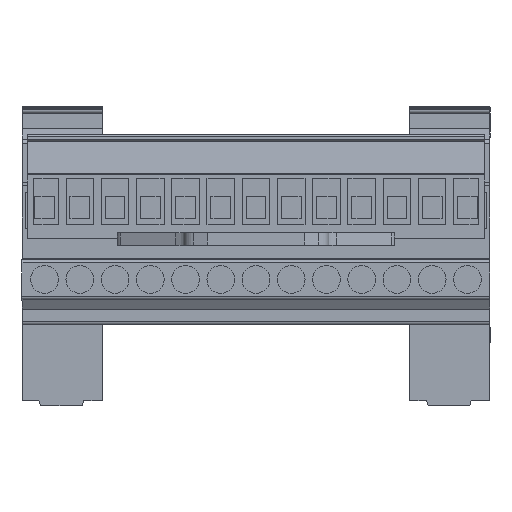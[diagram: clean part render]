
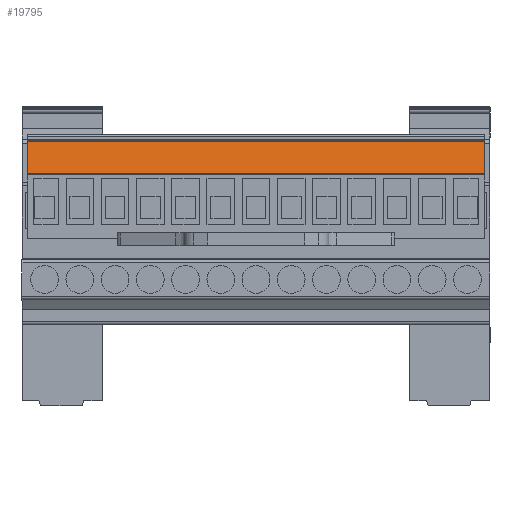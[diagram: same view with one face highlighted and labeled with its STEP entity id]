
A CAD part, top view. The second image highlights one B-rep face of the part: STEP entity #19795.
In plain terms, the highlighted planar face has unit normal (0, 0.174, 0.985).
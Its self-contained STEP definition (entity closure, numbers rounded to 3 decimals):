
#570 = VECTOR ( 'NONE', #3092, 1000. ) ;
#2757 = VERTEX_POINT ( 'NONE', #12497 ) ;
#3092 = DIRECTION ( 'NONE',  ( 1., 0., 0. ) ) ;
#5747 = CARTESIAN_POINT ( 'NONE',  ( -33., 38.098, 23.379 ) ) ;
#6050 = PLANE ( 'NONE',  #20122 ) ;
#8540 = EDGE_CURVE ( 'NONE', #2757, #27515, #13177, .T. ) ;
#9129 = VECTOR ( 'NONE', #30702, 1000. ) ;
#9325 = LINE ( 'NONE', #13281, #17428 ) ;
#10637 = CARTESIAN_POINT ( 'NONE',  ( -33., 33.445, 24.2 ) ) ;
#11513 = EDGE_CURVE ( 'NONE', #16813, #2757, #9325, .T. ) ;
#12008 = ORIENTED_EDGE ( 'NONE', *, *, #8540, .T. ) ;
#12447 = VECTOR ( 'NONE', #13589, 1000. ) ;
#12497 = CARTESIAN_POINT ( 'NONE',  ( -33., 33.445, 24.2 ) ) ;
#13165 = FACE_OUTER_BOUND ( 'NONE', #18298, .T. ) ;
#13177 = LINE ( 'NONE', #22944, #12447 ) ;
#13281 = CARTESIAN_POINT ( 'NONE',  ( -33., 33.445, 24.2 ) ) ;
#13589 = DIRECTION ( 'NONE',  ( 1., 0., 0. ) ) ;
#14173 = CARTESIAN_POINT ( 'NONE',  ( 33., 33.445, 24.2 ) ) ;
#15665 = DIRECTION ( 'NONE',  ( 0., -0.985, 0.174 ) ) ;
#15744 = ORIENTED_EDGE ( 'NONE', *, *, #30117, .F. ) ;
#16813 = VERTEX_POINT ( 'NONE', #27458 ) ;
#17320 = VERTEX_POINT ( 'NONE', #26929 ) ;
#17428 = VECTOR ( 'NONE', #15665, 1000. ) ;
#17726 = DIRECTION ( 'NONE',  ( 0., 0.174, 0.985 ) ) ;
#17951 = LINE ( 'NONE', #23626, #9129 ) ;
#18298 = EDGE_LOOP ( 'NONE', ( #12008, #15744, #29122, #27353 ) ) ;
#19413 = LINE ( 'NONE', #5747, #570 ) ;
#19795 = ADVANCED_FACE ( 'NONE', ( #13165 ), #6050, .T. ) ;
#20122 = AXIS2_PLACEMENT_3D ( 'NONE', #10637, #17726, #22470 ) ;
#22470 = DIRECTION ( 'NONE',  ( 0., -0.985, 0.174 ) ) ;
#22944 = CARTESIAN_POINT ( 'NONE',  ( -33., 33.445, 24.2 ) ) ;
#23626 = CARTESIAN_POINT ( 'NONE',  ( 33., 33.445, 24.2 ) ) ;
#26929 = CARTESIAN_POINT ( 'NONE',  ( 33., 38.098, 23.379 ) ) ;
#27353 = ORIENTED_EDGE ( 'NONE', *, *, #11513, .T. ) ;
#27458 = CARTESIAN_POINT ( 'NONE',  ( -33., 38.098, 23.379 ) ) ;
#27515 = VERTEX_POINT ( 'NONE', #14173 ) ;
#29122 = ORIENTED_EDGE ( 'NONE', *, *, #30354, .F. ) ;
#30117 = EDGE_CURVE ( 'NONE', #17320, #27515, #17951, .T. ) ;
#30354 = EDGE_CURVE ( 'NONE', #16813, #17320, #19413, .T. ) ;
#30702 = DIRECTION ( 'NONE',  ( 0., -0.985, 0.174 ) ) ;
